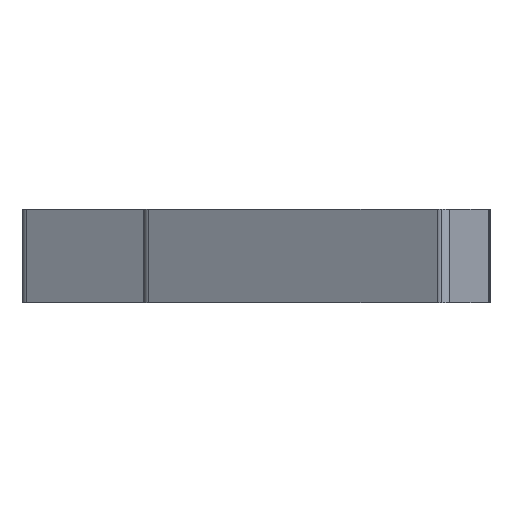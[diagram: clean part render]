
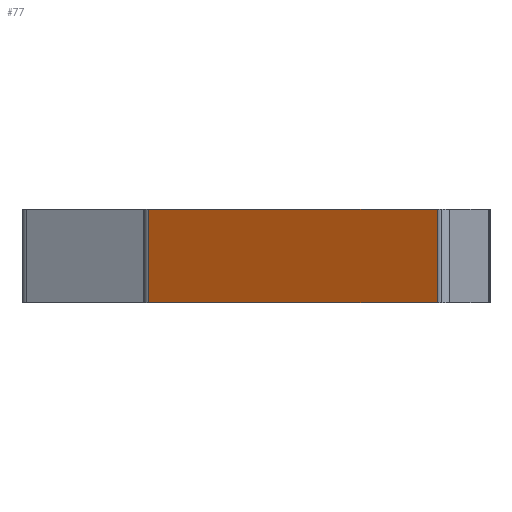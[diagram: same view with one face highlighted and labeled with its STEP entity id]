
A CAD part, left-side view. The second image highlights one B-rep face of the part: STEP entity #77.
In plain terms, the highlighted planar face has unit normal (-0.866, 0.5, 0).
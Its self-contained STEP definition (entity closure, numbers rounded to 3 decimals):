
#28 = ORIENTED_EDGE ( 'NONE', *, *, #697, .T. ) ;
#36 = VECTOR ( 'NONE', #674, 1000. ) ;
#46 = CARTESIAN_POINT ( 'NONE',  ( -7., 4.839, 0. ) ) ;
#77 = ADVANCED_FACE ( 'NONE', ( #86 ), #543, .F. ) ;
#84 = LINE ( 'NONE', #269, #1039 ) ;
#86 = FACE_OUTER_BOUND ( 'NONE', #556, .T. ) ;
#99 = VERTEX_POINT ( 'NONE', #194 ) ;
#105 = DIRECTION ( 'NONE',  ( 0.5, 0.866, 0. ) ) ;
#106 = VECTOR ( 'NONE', #1042, 1000. ) ;
#184 = VERTEX_POINT ( 'NONE', #1132 ) ;
#194 = CARTESIAN_POINT ( 'NONE',  ( -6.539, 5.638, 10. ) ) ;
#197 = DIRECTION ( 'NONE',  ( 0.866, -0.5, 0. ) ) ;
#264 = ORIENTED_EDGE ( 'NONE', *, *, #515, .T. ) ;
#269 = CARTESIAN_POINT ( 'NONE',  ( -7., 4.839, 10. ) ) ;
#414 = ORIENTED_EDGE ( 'NONE', *, *, #658, .T. ) ;
#425 = CARTESIAN_POINT ( 'NONE',  ( -6.539, 5.638, 10. ) ) ;
#442 = LINE ( 'NONE', #425, #1138 ) ;
#452 = DIRECTION ( 'NONE',  ( -0.5, -0.866, 0. ) ) ;
#492 = CARTESIAN_POINT ( 'NONE',  ( -6.539, 5.638, 0. ) ) ;
#504 = LINE ( 'NONE', #46, #106 ) ;
#515 = EDGE_CURVE ( 'NONE', #1045, #99, #442, .T. ) ;
#543 = PLANE ( 'NONE',  #1161 ) ;
#556 = EDGE_LOOP ( 'NONE', ( #414, #264, #994, #28 ) ) ;
#650 = CARTESIAN_POINT ( 'NONE',  ( -7., 4.839, 10. ) ) ;
#658 = EDGE_CURVE ( 'NONE', #184, #1045, #504, .T. ) ;
#674 = DIRECTION ( 'NONE',  ( 0., 0., -1. ) ) ;
#697 = EDGE_CURVE ( 'NONE', #824, #184, #771, .T. ) ;
#727 = EDGE_CURVE ( 'NONE', #824, #99, #84, .T. ) ;
#741 = CARTESIAN_POINT ( 'NONE',  ( 11.279, 36.5, 10. ) ) ;
#771 = LINE ( 'NONE', #1133, #36 ) ;
#824 = VERTEX_POINT ( 'NONE', #741 ) ;
#994 = ORIENTED_EDGE ( 'NONE', *, *, #727, .F. ) ;
#1039 = VECTOR ( 'NONE', #452, 1000. ) ;
#1042 = DIRECTION ( 'NONE',  ( -0.5, -0.866, 0. ) ) ;
#1045 = VERTEX_POINT ( 'NONE', #492 ) ;
#1059 = DIRECTION ( 'NONE',  ( 0., 0., 1. ) ) ;
#1132 = CARTESIAN_POINT ( 'NONE',  ( 11.279, 36.5, 0. ) ) ;
#1133 = CARTESIAN_POINT ( 'NONE',  ( 11.279, 36.5, 10. ) ) ;
#1138 = VECTOR ( 'NONE', #1059, 1000. ) ;
#1161 = AXIS2_PLACEMENT_3D ( 'NONE', #650, #197, #105 ) ;
